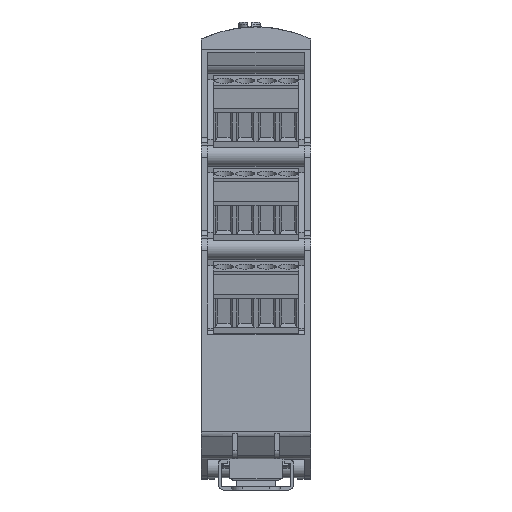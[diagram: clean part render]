
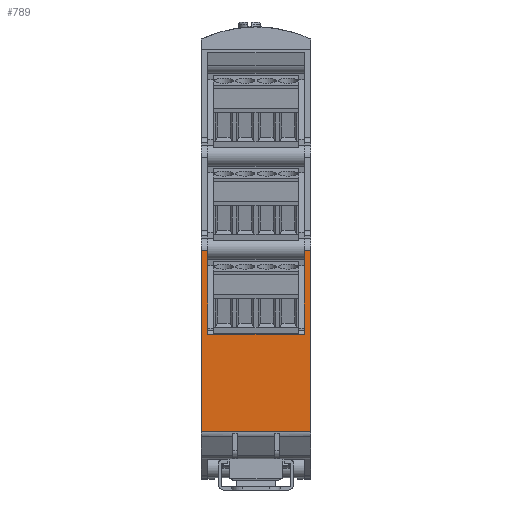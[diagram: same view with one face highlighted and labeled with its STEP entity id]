
A CAD part, front view. The second image highlights one B-rep face of the part: STEP entity #789.
In plain terms, the highlighted planar face has unit normal (0, -1, 0).
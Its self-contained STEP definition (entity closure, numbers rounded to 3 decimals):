
#789 = ADVANCED_FACE( '', ( #2445 ), #2446, .F. );
#2445 = FACE_OUTER_BOUND( '', #4196, .T. );
#2446 = PLANE( '', #4197 );
#4196 = EDGE_LOOP( '', ( #10156, #10157, #10158, #10159, #10160, #10161, #10162, #10163 ) );
#4197 = AXIS2_PLACEMENT_3D( '', #10164, #10165, #10166 );
#10156 = ORIENTED_EDGE( '', *, *, #11234, .T. );
#10157 = ORIENTED_EDGE( '', *, *, #11297, .F. );
#10158 = ORIENTED_EDGE( '', *, *, #12035, .T. );
#10159 = ORIENTED_EDGE( '', *, *, #12614, .T. );
#10160 = ORIENTED_EDGE( '', *, *, #12021, .F. );
#10161 = ORIENTED_EDGE( '', *, *, #12621, .F. );
#10162 = ORIENTED_EDGE( '', *, *, #12036, .T. );
#10163 = ORIENTED_EDGE( '', *, *, #11281, .F. );
#10164 = CARTESIAN_POINT( '', ( 12.7, -46.5, 48.562 ) );
#10165 = DIRECTION( '', ( 0., 1., 0. ) );
#10166 = DIRECTION( '', ( 0., 0., 1. ) );
#11234 = EDGE_CURVE( '', #13635, #13633, #13636, .T. );
#11281 = EDGE_CURVE( '', #13635, #13710, #13711, .T. );
#11297 = EDGE_CURVE( '', #13739, #13633, #13741, .T. );
#12021 = EDGE_CURVE( '', #15018, #15020, #15021, .T. );
#12035 = EDGE_CURVE( '', #13739, #15042, #15044, .T. );
#12036 = EDGE_CURVE( '', #15045, #13710, #15046, .T. );
#12614 = EDGE_CURVE( '', #15042, #15020, #15920, .T. );
#12621 = EDGE_CURVE( '', #15045, #15018, #15931, .T. );
#13633 = VERTEX_POINT( '', #17520 );
#13635 = VERTEX_POINT( '', #17522 );
#13636 = LINE( '', #17523, #17524 );
#13710 = VERTEX_POINT( '', #17637 );
#13711 = LINE( '', #17638, #17639 );
#13739 = VERTEX_POINT( '', #17674 );
#13741 = LINE( '', #17676, #17677 );
#15018 = VERTEX_POINT( '', #20134 );
#15020 = VERTEX_POINT( '', #20136 );
#15021 = LINE( '', #20137, #20138 );
#15042 = VERTEX_POINT( '', #20170 );
#15044 = LINE( '', #20172, #20173 );
#15045 = VERTEX_POINT( '', #20174 );
#15046 = LINE( '', #20175, #20176 );
#15920 = LINE( '', #21465, #21466 );
#15931 = LINE( '', #21480, #21481 );
#17520 = CARTESIAN_POINT( '', ( -11.2, -46.5, 29.024 ) );
#17522 = CARTESIAN_POINT( '', ( 11.2, -46.5, 29.024 ) );
#17523 = CARTESIAN_POINT( '', ( 11.2, -46.5, 29.024 ) );
#17524 = VECTOR( '', #22278, 1000. );
#17637 = CARTESIAN_POINT( '', ( 11.2, -46.5, 48.562 ) );
#17638 = CARTESIAN_POINT( '', ( 11.2, -46.5, 48.562 ) );
#17639 = VECTOR( '', #22339, 1000. );
#17674 = CARTESIAN_POINT( '', ( -11.2, -46.5, 48.562 ) );
#17676 = CARTESIAN_POINT( '', ( -11.2, -46.5, 48.562 ) );
#17677 = VECTOR( '', #22371, 1000. );
#20134 = CARTESIAN_POINT( '', ( 12.7, -46.5, 6.343 ) );
#20136 = CARTESIAN_POINT( '', ( -12.7, -46.5, 6.343 ) );
#20137 = CARTESIAN_POINT( '', ( 12.7, -46.5, 6.343 ) );
#20138 = VECTOR( '', #23211, 1000. );
#20170 = CARTESIAN_POINT( '', ( -12.7, -46.5, 48.562 ) );
#20172 = CARTESIAN_POINT( '', ( 12.7, -46.5, 48.562 ) );
#20173 = VECTOR( '', #23229, 1000. );
#20174 = CARTESIAN_POINT( '', ( 12.7, -46.5, 48.562 ) );
#20175 = CARTESIAN_POINT( '', ( 12.7, -46.5, 48.562 ) );
#20176 = VECTOR( '', #23230, 1000. );
#21465 = CARTESIAN_POINT( '', ( -12.7, -46.5, 48.562 ) );
#21466 = VECTOR( '', #24216, 1000. );
#21480 = CARTESIAN_POINT( '', ( 12.7, -46.5, 48.562 ) );
#21481 = VECTOR( '', #24229, 1000. );
#22278 = DIRECTION( '', ( -1., 0., 0. ) );
#22339 = DIRECTION( '', ( 0., 0., 1. ) );
#22371 = DIRECTION( '', ( 0., 0., -1. ) );
#23211 = DIRECTION( '', ( -1., 0., 0. ) );
#23229 = DIRECTION( '', ( -1., 0., 0. ) );
#23230 = DIRECTION( '', ( -1., 0., 0. ) );
#24216 = DIRECTION( '', ( 0., 0., -1. ) );
#24229 = DIRECTION( '', ( 0., 0., -1. ) );
